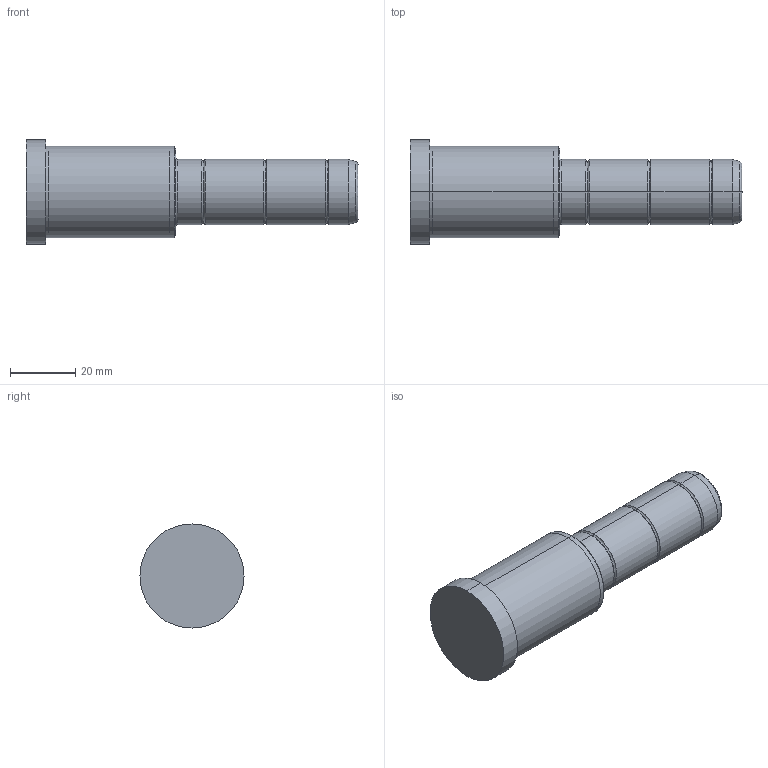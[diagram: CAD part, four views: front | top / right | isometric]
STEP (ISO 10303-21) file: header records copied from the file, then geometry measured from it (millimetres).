
FILE_DESCRIPTION( ( 'STEP AP203' ), '1' );
FILE_NAME( 'C:/Projects/D02 - 20x46x56.step', '2003-01-04T13:56:53', ( ' ' ), ( ' ' ), 'XStep 1.0', ' ', ' ' );
FILE_SCHEMA( ( 'CONFIG_CONTROL_DESIGN' ) );
Length unit declared in the file: metre
Products named in the file (1): 1
Bounding box: 102 x 32 x 32 mm (x, y, z)
Volume: 46921 mm3; surface area: 9248.6 mm2
Topology: 1 solids, 1 shells, 42 faces, 82 edges, 46 vertices
Faces by surface type: bspline 22, revolution 20
Entity records: 1325 total; most frequent: CARTESIAN_POINT 517, ORIENTED_EDGE 164, DIRECTION 134, EDGE_CURVE 82, AXIS2_PLACEMENT_3D 47, EDGE_LOOP 46, VERTEX_POINT 46, CIRCLE 46
